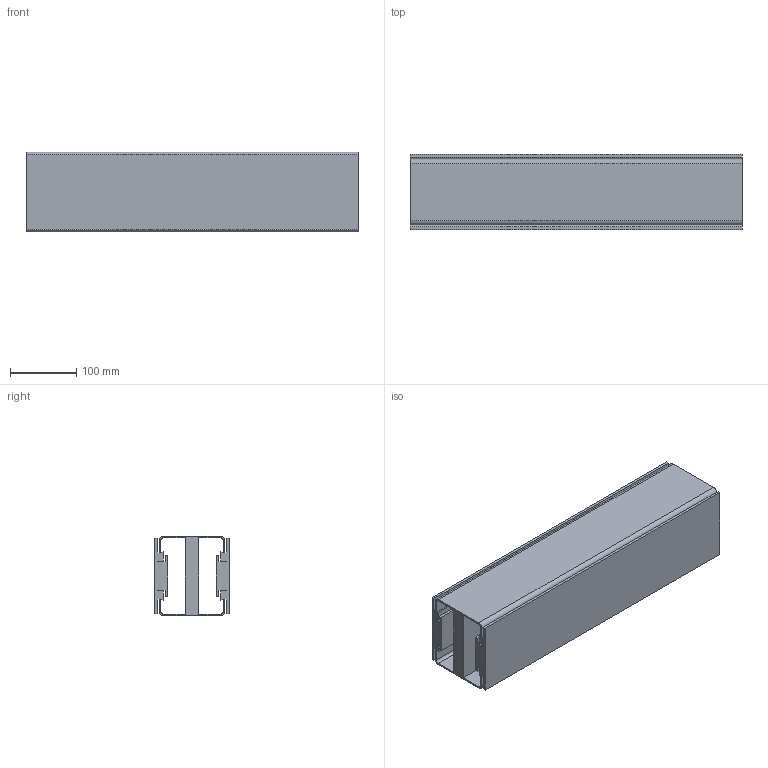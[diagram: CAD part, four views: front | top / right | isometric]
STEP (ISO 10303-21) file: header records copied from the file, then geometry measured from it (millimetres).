
FILE_DESCRIPTION (( 'STEP AP214' ), '1' );
FILE_NAME ('VC.120 Baansectie.STEP', '2016-05-13T16:10:30', ( '' ), ( '' ), 'SwSTEP 2.0', 'SolidWorks 2016', '' );
FILE_SCHEMA (( 'AUTOMOTIVE_DESIGN' ));
Length unit declared in the file: millimetre
Products named in the file (1): VC.120 Baansectie
Bounding box: 500 x 113 x 120 mm (x, y, z)
Volume: 2948065.1 mm3; surface area: 724645.6 mm2
Topology: 1 solids, 1 shells, 70 faces, 204 edges, 136 vertices
Faces by surface type: plane 62, cylinder 8
Entity records: 2326 total; most frequent: CARTESIAN_POINT 411, ORIENTED_EDGE 408, DIRECTION 362, EDGE_CURVE 204, VECTOR 188, LINE 188, VERTEX_POINT 136, AXIS2_PLACEMENT_3D 87
